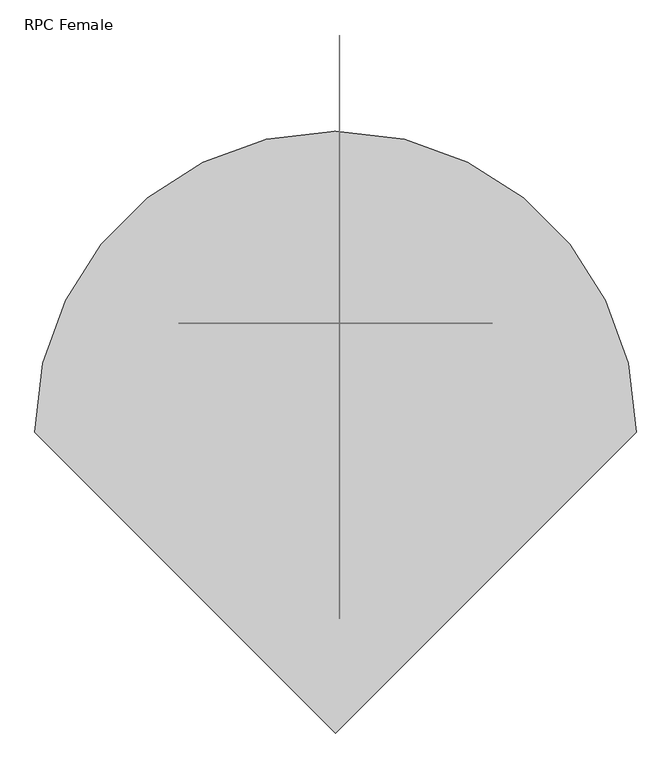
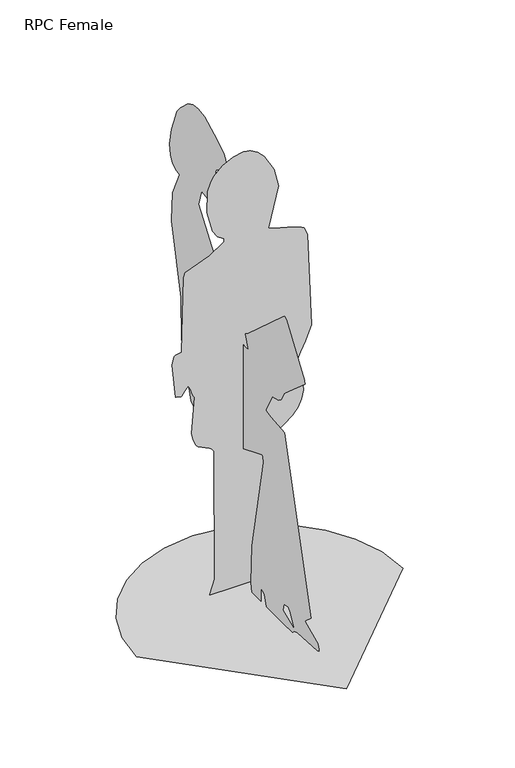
"""IFC4 building model written with IfcOpenShell, lengths in millimetres: proxy geometry, RPC Female : Cynthia."""

from ifc_helpers import new_model, si_unit, origin, place, context, project, spatial, triangles, source, transform, mapped, element, save


def rpc_female_69e001fa(model_context):
    return source(origin(), model_context, "Body", "Tessellation", [
        triangles([(441.0115623, 0.000195, 2.95e-05), (429.3526809, 101.0508723, 2.95e-05), (396.1482759, 193.849741, 2.95e-05), (344.0570151, 275.7380384, 2.95e-05), (275.7379839, 344.0571968, 2.95e-05), (193.8496139, 396.1483123, 2.95e-05), (101.0507542, 429.3527172, 2.95e-05), (0.0001128, 441.0116713, 2.95e-05), (-101.0505544, 429.3527899, 2.95e-05), (-193.8494322, 396.148385, 2.95e-05), (-275.7377296, 344.0571241, 2.95e-05), (-344.0569061, 275.7380929, 2.95e-05), (-396.1479853, 193.8497047, 2.95e-05), (-429.3523902, 101.050836, 2.95e-05), (-441.0113442, 0.0002072, 2.95e-05), (0.0001438, -441.0112716, 2.95e-05), (5.6288573, -72.8588658, 70.0852524), (5.6288585, -67.5989398, 46.4156806), (5.6288573, -125.4578945, 20.1161663), (5.6288573, -130.7178024, 25.3760469), (5.6288568, -108.5117995, 62.7542455), (5.6288568, -96.5284376, 75.3451376), (5.6288636, 28.8463111, 4.4e-06), (5.6288636, 40.229117, 35.8958717), (5.6288636, 42.8589028, 37.582617), (5.6288625, 46.0255291, 39.5148301), (5.628863, 49.4069043, 41.5083494), (5.628863, 52.681005, 43.379338), (5.628863, 55.5256987, 44.9433777), (5.628863, 57.6189803, 46.0169087), (5.628863, 58.6387491, 46.4156852), (5.6288642, 58.6388308, 5.3e-06), (5.628867, 109.8769052, 6.9e-06), (5.6288664, 117.5638814, 30.0747313), (5.6288619, 110.2503108, 165.0034458), (5.6288494, 45.8425779, 492.8873202), (5.6288488, 48.1189788, 514.5472627), (5.6288494, 53.3788639, 517.177153), (5.6288551, 178.1910311, 465.0429442), (5.6288659, 434.6626039, 445.1924844), (5.6288664, 450.5017533, 448.7984416), (5.6288659, 460.0242462, 459.6877842), (5.6288625, 516.0170857, 641.4428965), (5.628859, 518.8805374, 782.802364), (5.6288539, 571.5700902, 1021.0322994), (5.6288505, 566.21969, 1122.0662487), (5.628846, 526.7703175, 1208.8547012), (5.6288471, 549.382382, 1214.8042654), (5.6288471, 565.9655994, 1225.2772453), (5.6288471, 578.7778625, 1246.7330578), (5.628846, 582.3522446, 1283.6603096), (5.6288443, 571.2219646, 1340.5468082), (5.6288409, 539.9200962, 1421.8809425), (5.6288392, 521.1666261, 1445.9133419), (5.6288363, 476.5802487, 1486.8137524), (5.6288346, 449.7626269, 1499.3802818), (5.6288341, 419.2722642, 1503.8241966), (5.6288324, 384.616676, 1497.9941746), (5.6288307, 310.7213682, 1462.458989), (5.6288295, 273.9932867, 1438.4605991), (5.6288295, 262.185559, 1422.5043056), (5.6288307, 258.6746723, 1403.1431328), (5.6288318, 266.4050325, 1379.8015343), (5.6288318, 272.8454643, 1373.0538357), (5.6288341, 310.0952073, 1357.378775), (5.6288341, 316.3479143, 1352.4607613), (5.6288341, 319.0040749, 1345.6121967), (5.6288346, 317.1758071, 1332.7887062), (5.6288358, 305.8543688, 1300.9030071), (5.6288358, 306.5085803, 1292.1762142), (5.6288386, 347.7776456, 1237.8581635), (5.6288397, 353.1935214, 1227.2643333), (5.6288397, 357.0101126, 1223.4171844), (5.6288403, 363.9689901, 1222.1001137), (5.6288409, 400.532674, 1227.2643333), (5.6288431, 416.3123068, 1172.0353643), (5.6288437, 303.2702605, 1016.0021559), (5.6288454, 265.1504216, 911.3598513), (5.6288466, 263.775124, 856.4411104), (5.6288437, 152.5272633, 835.1195194), (5.6288426, 132.277491, 835.401479), (5.628842, 148.158462, 880.886566), (5.628842, 148.0571964, 882.7405226), (5.6288414, 137.6855366, 888.0610554), (5.6288284, -66.8523783, 1071.7676474), (5.6288278, -73.5721762, 1077.1684078), (5.6288273, -86.0403423, 1072.7861898), (5.6288284, -188.4956529, 924.5040344), (5.6288278, -191.2067156, 911.6700068), (5.6288358, -75.4888061, 809.1019215), (5.6288375, -53.9765018, 775.0415005), (5.628838, -41.2994232, 764.3927319), (5.6288397, -7.1097666, 756.5028791), (5.6288437, 31.0002698, 687.1164167), (5.6288437, 32.3392324, 682.8642054), (5.628842, 2.8209363, 678.8459913), (5.6288397, -75.4888061, 672.3443533), (5.6288505, -225.3960531, 114.7944466), (5.6288528, -193.9320943, 87.1596054), (5.6288528, -191.2067156, 83.2349994), (5.6288517, -259.585536, 54.3055515), (5.6288517, -263.2692319, 51.0626081), (5.6288511, -269.2554763, 42.3128878), (5.6288517, -272.6934387, 33.4609936), (5.6288517, -273.1919003, 30.0901578), (5.6288517, -272.7351876, 28.0059895), (5.6288522, -264.4336776, 24.8814686), (5.6288562, -149.6562449, 17.8736649), (5.6288573, -130.7178024, 12.2262931), (5.6288579, -120.2380551, 0.0), (104.0908666, 160.2089529, 3.1649078), (94.3579033, 160.2089529, 19.4060443), (89.3722792, 160.2089529, 24.6666948), (83.6749889, 160.2089529, 28.6502543), (77.3615298, 160.2089529, 30.6359184), (108.9209679, 160.208971, 488.2475235), (167.928994, 160.208971, 532.4711686), (185.1884419, 160.2089529, 554.3915603), (197.8182488, 160.2089529, 580.1067784), (203.7634891, 160.2089529, 609.7401077), (200.9693101, 160.2089529, 643.4147964), (182.2653646, 160.2089529, 694.762825), (181.0317008, 160.2089529, 706.1069727), (182.5596598, 160.2089529, 717.0533976), (187.6063721, 160.2089529, 730.9447008), (194.3765257, 160.2089529, 745.9818644), (210.3236083, 160.2089529, 778.2543858), (229.8987579, 160.2089529, 827.5114082), (217.4196868, 160.2089892, 1149.3768637), (206.2291816, 160.2089892, 1174.6651457), (197.3626625, 160.2089892, 1180.1408289), (179.9116746, 160.2089892, 1186.5602772), (157.4188797, 160.2090074, 1193.4647249), (133.4268122, 160.2090074, 1200.3943165), (111.4781428, 160.2090074, 1206.8904316), (95.1154424, 160.2090074, 1212.4937233), (87.8813364, 160.2090074, 1216.7444086), (122.0707194, 160.2090074, 1350.8719048), (106.8578307, 160.2090437, 1414.361198), (72.812575, 160.2090437, 1471.759584), (51.5733646, 160.2090437, 1493.1552258), (29.0406965, 160.2090437, 1507.0042351), (6.3528099, 160.2090437, 1511.2990311), (-28.6189517, 160.2090437, 1503.9375618), (-63.4776388, 160.2090437, 1485.8245686), (-92.9896819, 160.2090437, 1457.7803501), (-104.1052189, 160.2090437, 1440.290284), (-113.0716229, 160.2090437, 1412.8615803), (-115.1812325, 160.2090074, 1340.4901257), (-96.9761937, 160.2090074, 1269.5770123), (-80.5492803, 160.2090074, 1243.9710171), (-59.3960202, 160.2090074, 1229.89426), (-59.3960202, 160.2090074, 1219.3742626), (-106.3336349, 160.2090074, 1187.1321173), (-188.2636903, 160.2090255, 1156.2553682), (-192.5278195, 160.2090255, 1139.830426), (-199.1336482, 160.2090255, 881.9724009), (-218.9549129, 160.2090255, 877.9899405), (-221.2948136, 160.2090255, 876.8949492), (-223.230524, 160.2090255, 874.3329689), (-229.8985581, 160.2089892, 846.8826822), (-219.8231193, 160.2089892, 732.8331757), (-218.615544, 160.2089892, 731.6850626), (-200.1001226, 160.2089892, 727.4659161), (-198.783506, 160.2089892, 727.5732496), (-189.8889181, 160.2089892, 742.3224947), (-177.7438927, 160.2089892, 756.5027338), (-174.0054945, 160.2089892, 750.6861557), (-170.8934751, 160.208971, 743.8743622), (-168.1785245, 160.208971, 736.4751045), (-165.631369, 160.208971, 728.8964973), (-163.0227891, 160.208971, 721.5464373), (-160.1235293, 160.208971, 714.8328209), (-156.7042613, 160.208971, 709.1635448), (-165.9934653, 160.208971, 587.3215633), (-161.082228, 160.208971, 562.7220474), (-151.4443625, 160.208971, 540.8466748), (-144.6676413, 160.208971, 533.0879914), (-106.327031, 160.208971, 513.8626024), (-97.6973615, 160.208971, 507.5200027), (-90.955422, 160.208971, 498.7673756), (-89.4974987, 160.2089529, 49.829067), (-106.3299469, 160.2089529, 7.46e-05), (105.2757234, 160.2089529, 7.46e-05)], [[15, 16, 1], [14, 15, 1], [14, 1, 2], [13, 14, 2], [13, 2, 3], [13, 3, 4], [12, 13, 4], [11, 12, 4], [11, 4, 5], [11, 5, 6], [11, 6, 7], [11, 7, 8], [11, 8, 9], [11, 9, 10], [23, 17, 18], [110, 23, 18], [110, 18, 19], [109, 110, 19], [17, 23, 24], [31, 32, 33], [31, 33, 34], [109, 19, 20], [108, 109, 20], [88, 89, 90], [82, 83, 84], [85, 86, 87], [105, 106, 107], [104, 105, 107], [103, 104, 107], [102, 103, 107], [101, 102, 107], [100, 101, 107], [100, 107, 108], [100, 108, 20], [100, 20, 21], [100, 21, 22], [87, 88, 90], [85, 87, 90], [84, 85, 90], [84, 90, 91], [84, 91, 92], [84, 92, 93], [82, 84, 93], [81, 82, 93], [81, 93, 94], [80, 81, 94], [80, 94, 95], [99, 100, 22], [17, 24, 25], [17, 25, 26], [31, 34, 35], [30, 31, 35], [17, 26, 27], [17, 27, 28], [17, 28, 29], [29, 30, 35], [17, 29, 35], [22, 17, 35], [99, 22, 35], [98, 99, 35], [97, 98, 35], [97, 35, 36], [97, 36, 37], [96, 97, 37], [96, 37, 38], [95, 96, 38], [80, 95, 38], [80, 38, 39], [79, 80, 39], [79, 39, 40], [79, 40, 41], [79, 41, 42], [79, 42, 43], [79, 43, 44], [78, 79, 44], [77, 78, 44], [77, 44, 45], [77, 45, 46], [76, 77, 46], [76, 46, 47], [75, 76, 47], [72, 73, 74], [71, 72, 74], [61, 62, 63], [60, 61, 63], [60, 63, 64], [59, 60, 64], [59, 64, 65], [59, 65, 66], [58, 59, 66], [57, 58, 66], [56, 57, 66], [55, 56, 66], [54, 55, 66], [54, 66, 67], [53, 54, 67], [52, 53, 67], [52, 67, 68], [51, 52, 68], [50, 51, 68], [49, 50, 68], [48, 49, 68], [47, 48, 68], [75, 47, 68], [74, 75, 68], [71, 74, 68], [70, 71, 68], [69, 70, 68], [183, 184, 111], [183, 111, 112], [183, 112, 113], [183, 113, 114], [183, 114, 115], [182, 183, 115], [181, 182, 115], [181, 115, 116], [154, 155, 156], [164, 165, 166], [180, 181, 116], [163, 164, 166], [162, 163, 166], [162, 166, 167], [161, 162, 167], [160, 161, 167], [159, 160, 167], [158, 159, 167], [157, 158, 167], [180, 116, 117], [180, 117, 118], [180, 118, 119], [180, 119, 120], [180, 120, 121], [180, 121, 122], [179, 180, 122], [179, 122, 123], [178, 179, 123], [177, 178, 123], [176, 177, 123], [175, 176, 123], [174, 175, 123], [174, 123, 124], [174, 124, 125], [173, 174, 125], [172, 173, 125], [171, 172, 125], [170, 171, 125], [169, 170, 125], [169, 125, 126], [168, 169, 126], [168, 126, 127], [167, 168, 127], [157, 167, 127], [157, 127, 128], [156, 157, 128], [154, 156, 128], [153, 154, 128], [153, 128, 129], [153, 129, 130], [153, 130, 131], [153, 131, 132], [153, 132, 133], [153, 133, 134], [153, 134, 135], [153, 135, 136], [153, 136, 137], [152, 153, 137], [151, 152, 137], [150, 151, 137], [149, 150, 137], [149, 137, 138], [149, 138, 139], [148, 149, 139], [147, 148, 139], [146, 147, 139], [146, 139, 140], [145, 146, 140], [145, 140, 141], [144, 145, 141], [144, 141, 142], [144, 142, 143]], closed=False),
    ])


if __name__ == "__main__":
    model = new_model("IFC4")
    model_context = context("Model", 3, world=origin())
    ifc_project = project(units=[si_unit("LENGTHUNIT", "METRE", prefix="MILLI")], contexts=[model_context])
    site = spatial("IfcSite", under=ifc_project)
    building = spatial("IfcBuilding", under=site)
    placement = place(None, origin())
    rpc_female_shape = rpc_female_69e001fa(model_context)
    element("IfcBuildingElementProxy", 1, Name="RPC Female : Cynthia", ObjectType="RPC Female : Cynthia", at=placement, inside=building, context=model_context, shape_type="MappedRepresentation", body=[
        mapped(rpc_female_shape, transform((0.0, 0.0, 0.0), x_axis=(1.0, 0.0, 0.0), y_axis=(0.0, 1.0, 0.0), z_axis=(0.0, 0.0, 1.0))),
    ])
    save(model, "model.ifc")
